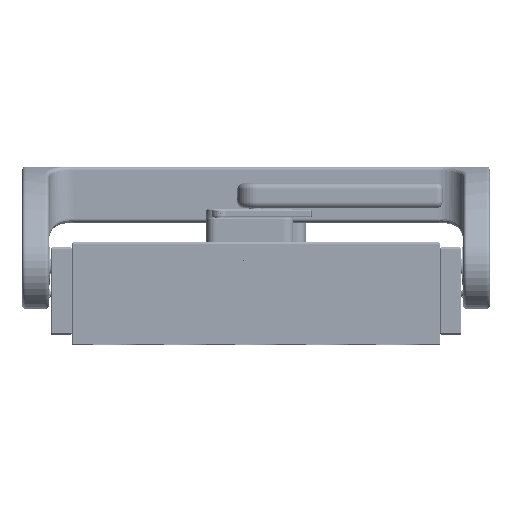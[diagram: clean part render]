
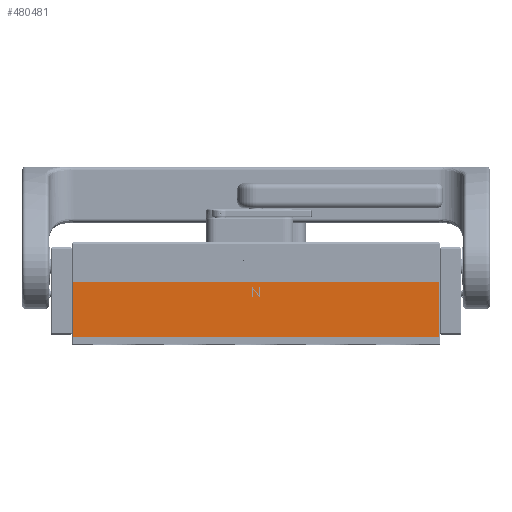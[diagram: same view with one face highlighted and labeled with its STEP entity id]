
A CAD part, top view. The second image highlights one B-rep face of the part: STEP entity #480481.
In plain terms, the highlighted planar face has unit normal (0, 0, 1) as drawn and (0, 0, -1) by its records, which use the part's own axes.
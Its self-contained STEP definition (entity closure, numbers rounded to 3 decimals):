
#8793 = CARTESIAN_POINT ( 'NONE',  ( -2.359, -73.296, -206.5 ) ) ;
#9871 = PLANE ( 'NONE',  #468258 ) ;
#10339 = VECTOR ( 'NONE', #87849, 1000. ) ;
#10483 = DIRECTION ( 'NONE',  ( -0.643, -0.766, 0. ) ) ;
#12543 = DIRECTION ( 'NONE',  ( -1., 0., 0. ) ) ;
#13182 = LINE ( 'NONE', #264684, #282104 ) ;
#14468 = CARTESIAN_POINT ( 'NONE',  ( -147., -53.54, -206.5 ) ) ;
#17505 = CARTESIAN_POINT ( 'NONE',  ( -147., -63., -206.5 ) ) ;
#29109 = CARTESIAN_POINT ( 'NONE',  ( -2.359, -67., -206.5 ) ) ;
#30853 = VERTEX_POINT ( 'NONE', #444320 ) ;
#41299 = CARTESIAN_POINT ( 'NONE',  ( -147., -107., -206.5 ) ) ;
#43645 = CARTESIAN_POINT ( 'NONE',  ( 83., -107., -206.5 ) ) ;
#44002 = CARTESIAN_POINT ( 'NONE',  ( -3.077, -75., -206.5 ) ) ;
#54199 = EDGE_CURVE ( 'NONE', #146222, #176036, #175526, .T. ) ;
#56815 = LINE ( 'NONE', #261366, #325400 ) ;
#58483 = DIRECTION ( 'NONE',  ( 0., -1., 0. ) ) ;
#64222 = EDGE_CURVE ( 'NONE', #461384, #214265, #13182, .T. ) ;
#69198 = EDGE_CURVE ( 'NONE', #176036, #476391, #298366, .T. ) ;
#81996 = DIRECTION ( 'NONE',  ( 0., -1., 0. ) ) ;
#82122 = ORIENTED_EDGE ( 'NONE', *, *, #237862, .T. ) ;
#86588 = CARTESIAN_POINT ( 'NONE',  ( 3.077, -75., -206.5 ) ) ;
#87849 = DIRECTION ( 'NONE',  ( 1., 0., 0. ) ) ;
#89225 = VERTEX_POINT ( 'NONE', #361741 ) ;
#91608 = CARTESIAN_POINT ( 'NONE',  ( -2.913, -75., -206.5 ) ) ;
#94910 = LINE ( 'NONE', #100314, #402308 ) ;
#95926 = LINE ( 'NONE', #524350, #429789 ) ;
#99307 = DIRECTION ( 'NONE',  ( 0.643, 0.766, 0. ) ) ;
#99947 = LINE ( 'NONE', #437249, #229985 ) ;
#100314 = CARTESIAN_POINT ( 'NONE',  ( 147., -63., -206.5 ) ) ;
#112648 = EDGE_CURVE ( 'NONE', #202534, #30853, #372059, .T. ) ;
#120098 = VERTEX_POINT ( 'NONE', #191837 ) ;
#126207 = FACE_OUTER_BOUND ( 'NONE', #279719, .T. ) ;
#134184 = CARTESIAN_POINT ( 'NONE',  ( -3.077, -75., -206.5 ) ) ;
#137465 = ORIENTED_EDGE ( 'NONE', *, *, #540733, .F. ) ;
#138005 = CARTESIAN_POINT ( 'NONE',  ( -2.913, -75., -206.5 ) ) ;
#146222 = VERTEX_POINT ( 'NONE', #44002 ) ;
#152173 = EDGE_LOOP ( 'NONE', ( #293505, #294798, #82122, #391203, #314586, #323697, #488012, #213710, #268185, #323633 ) ) ;
#166337 = DIRECTION ( 'NONE',  ( 1., 0., 0. ) ) ;
#168550 = CARTESIAN_POINT ( 'NONE',  ( 2.359, -68.718, -206.5 ) ) ;
#170823 = VECTOR ( 'NONE', #203259, 1000. ) ;
#175526 = LINE ( 'NONE', #134184, #488855 ) ;
#176036 = VERTEX_POINT ( 'NONE', #91608 ) ;
#187470 = VERTEX_POINT ( 'NONE', #197042 ) ;
#191837 = CARTESIAN_POINT ( 'NONE',  ( 2.359, -75., -206.5 ) ) ;
#197042 = CARTESIAN_POINT ( 'NONE',  ( 147., -107., -206.5 ) ) ;
#202534 = VERTEX_POINT ( 'NONE', #86588 ) ;
#203259 = DIRECTION ( 'NONE',  ( 0., 1., 0. ) ) ;
#213710 = ORIENTED_EDGE ( 'NONE', *, *, #354596, .T. ) ;
#214265 = VERTEX_POINT ( 'NONE', #350074 ) ;
#219690 = DIRECTION ( 'NONE',  ( 1., 0., 0. ) ) ;
#229985 = VECTOR ( 'NONE', #58483, 1000. ) ;
#237862 = EDGE_CURVE ( 'NONE', #214265, #443777, #429091, .T. ) ;
#237930 = EDGE_CURVE ( 'NONE', #520848, #187470, #99947, .T. ) ;
#249300 = CARTESIAN_POINT ( 'NONE',  ( 2.359, -75., -206.5 ) ) ;
#256981 = LINE ( 'NONE', #168550, #423929 ) ;
#258670 = DIRECTION ( 'NONE',  ( 0., 0., -1. ) ) ;
#261366 = CARTESIAN_POINT ( 'NONE',  ( -2.359, -67., -206.5 ) ) ;
#264407 = DIRECTION ( 'NONE',  ( -1., 0., 0. ) ) ;
#264684 = CARTESIAN_POINT ( 'NONE',  ( 2.926, -67., -206.5 ) ) ;
#268185 = ORIENTED_EDGE ( 'NONE', *, *, #383545, .T. ) ;
#273268 = EDGE_CURVE ( 'NONE', #89225, #146222, #389447, .T. ) ;
#279719 = EDGE_LOOP ( 'NONE', ( #514555, #137465, #523630, #311495 ) ) ;
#282104 = VECTOR ( 'NONE', #10483, 1000. ) ;
#286861 = EDGE_CURVE ( 'NONE', #368006, #501066, #432022, .T. ) ;
#293505 = ORIENTED_EDGE ( 'NONE', *, *, #547129, .T. ) ;
#294798 = ORIENTED_EDGE ( 'NONE', *, *, #64222, .T. ) ;
#295577 = CARTESIAN_POINT ( 'NONE',  ( 147., -63., -206.5 ) ) ;
#298366 = LINE ( 'NONE', #138005, #336602 ) ;
#304483 = DIRECTION ( 'NONE',  ( 0., 1., 0. ) ) ;
#311495 = ORIENTED_EDGE ( 'NONE', *, *, #461241, .F. ) ;
#314586 = ORIENTED_EDGE ( 'NONE', *, *, #273268, .T. ) ;
#323633 = ORIENTED_EDGE ( 'NONE', *, *, #112648, .T. ) ;
#323697 = ORIENTED_EDGE ( 'NONE', *, *, #54199, .T. ) ;
#325400 = VECTOR ( 'NONE', #12543, 1000. ) ;
#329554 = LINE ( 'NONE', #249300, #520051 ) ;
#336602 = VECTOR ( 'NONE', #99307, 1000. ) ;
#343203 = VECTOR ( 'NONE', #472405, 1000. ) ;
#350074 = CARTESIAN_POINT ( 'NONE',  ( -2.359, -73.296, -206.5 ) ) ;
#350591 = CARTESIAN_POINT ( 'NONE',  ( -3.077, -67., -206.5 ) ) ;
#354596 = EDGE_CURVE ( 'NONE', #476391, #120098, #256981, .T. ) ;
#361741 = CARTESIAN_POINT ( 'NONE',  ( -3.077, -67., -206.5 ) ) ;
#367684 = VECTOR ( 'NONE', #525879, 1000. ) ;
#368006 = VERTEX_POINT ( 'NONE', #41299 ) ;
#372059 = LINE ( 'NONE', #538043, #170823 ) ;
#383545 = EDGE_CURVE ( 'NONE', #120098, #202534, #329554, .T. ) ;
#385939 = CARTESIAN_POINT ( 'NONE',  ( -224., -53.54, -206.5 ) ) ;
#389447 = LINE ( 'NONE', #350591, #343203 ) ;
#391203 = ORIENTED_EDGE ( 'NONE', *, *, #415470, .T. ) ;
#402308 = VECTOR ( 'NONE', #517888, 1000. ) ;
#415470 = EDGE_CURVE ( 'NONE', #443777, #89225, #56815, .T. ) ;
#423929 = VECTOR ( 'NONE', #521654, 1000. ) ;
#429091 = LINE ( 'NONE', #8793, #539232 ) ;
#429789 = VECTOR ( 'NONE', #264407, 1000. ) ;
#432022 = LINE ( 'NONE', #14468, #367684 ) ;
#437249 = CARTESIAN_POINT ( 'NONE',  ( 147., -53.54, -206.5 ) ) ;
#438351 = CARTESIAN_POINT ( 'NONE',  ( 2.359, -68.718, -206.5 ) ) ;
#443777 = VERTEX_POINT ( 'NONE', #29109 ) ;
#444320 = CARTESIAN_POINT ( 'NONE',  ( 3.077, -67., -206.5 ) ) ;
#445808 = CARTESIAN_POINT ( 'NONE',  ( 2.926, -67., -206.5 ) ) ;
#461241 = EDGE_CURVE ( 'NONE', #520848, #501066, #94910, .T. ) ;
#461384 = VERTEX_POINT ( 'NONE', #445808 ) ;
#468258 = AXIS2_PLACEMENT_3D ( 'NONE', #385939, #258670, #81996 ) ;
#472405 = DIRECTION ( 'NONE',  ( 0., -1., 0. ) ) ;
#476391 = VERTEX_POINT ( 'NONE', #438351 ) ;
#480481 = ADVANCED_FACE ( 'NONE', ( #510403, #126207 ), #9871, .T. ) ;
#488012 = ORIENTED_EDGE ( 'NONE', *, *, #69198, .T. ) ;
#488855 = VECTOR ( 'NONE', #219690, 1000. ) ;
#499925 = LINE ( 'NONE', #43645, #10339 ) ;
#501066 = VERTEX_POINT ( 'NONE', #17505 ) ;
#510403 = FACE_BOUND ( 'NONE', #152173, .T. ) ;
#514555 = ORIENTED_EDGE ( 'NONE', *, *, #237930, .T. ) ;
#517888 = DIRECTION ( 'NONE',  ( -1., 0., 0. ) ) ;
#520051 = VECTOR ( 'NONE', #166337, 1000. ) ;
#520848 = VERTEX_POINT ( 'NONE', #295577 ) ;
#521654 = DIRECTION ( 'NONE',  ( 0., -1., 0. ) ) ;
#523630 = ORIENTED_EDGE ( 'NONE', *, *, #286861, .T. ) ;
#524350 = CARTESIAN_POINT ( 'NONE',  ( 3.077, -67., -206.5 ) ) ;
#525879 = DIRECTION ( 'NONE',  ( 0., 1., 0. ) ) ;
#538043 = CARTESIAN_POINT ( 'NONE',  ( 3.077, -75., -206.5 ) ) ;
#539232 = VECTOR ( 'NONE', #304483, 1000. ) ;
#540733 = EDGE_CURVE ( 'NONE', #368006, #187470, #499925, .T. ) ;
#547129 = EDGE_CURVE ( 'NONE', #30853, #461384, #95926, .T. ) ;
